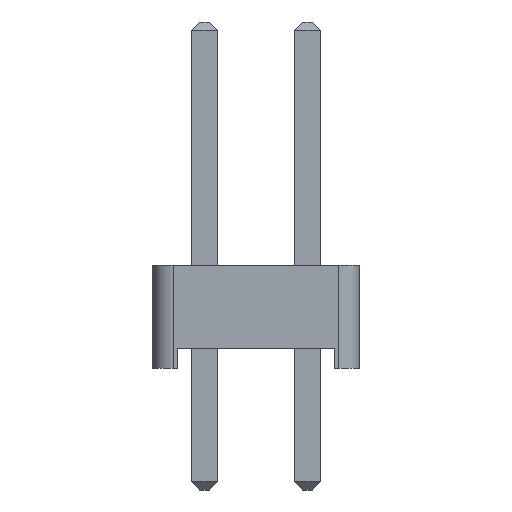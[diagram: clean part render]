
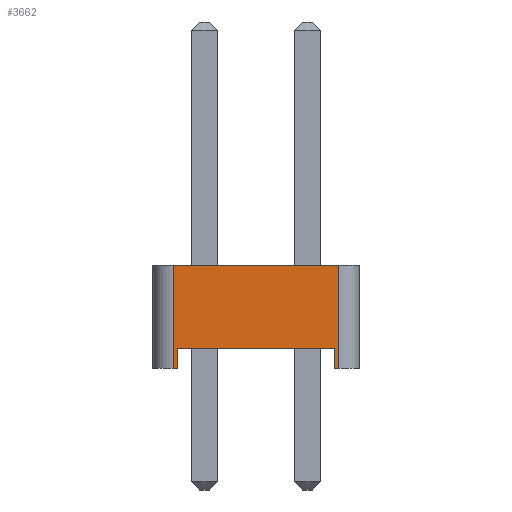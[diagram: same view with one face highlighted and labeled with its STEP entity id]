
A CAD part, left-side view. The second image highlights one B-rep face of the part: STEP entity #3662.
In plain terms, the highlighted planar face has unit normal (-1, 0, 0).
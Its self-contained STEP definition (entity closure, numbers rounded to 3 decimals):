
#3402 = VERTEX_POINT('',#3403);
#3403 = CARTESIAN_POINT('',(-1.27,2.04,0.));
#3411 = PLANE('',#3412);
#3412 = AXIS2_PLACEMENT_3D('',#3413,#3414,#3415);
#3413 = CARTESIAN_POINT('',(0.,0.,0.));
#3414 = DIRECTION('',(-0.,-0.,-1.));
#3415 = DIRECTION('',(-1.,0.,0.));
#3427 = CYLINDRICAL_SURFACE('',#3428,0.5);
#3428 = AXIS2_PLACEMENT_3D('',#3429,#3430,#3431);
#3429 = CARTESIAN_POINT('',(-0.77,2.04,0.));
#3430 = DIRECTION('',(0.,0.,1.));
#3431 = DIRECTION('',(0.,1.,0.));
#3529 = VERTEX_POINT('',#3530);
#3530 = CARTESIAN_POINT('',(-1.27,1.94,0.));
#3544 = PLANE('',#3545);
#3545 = AXIS2_PLACEMENT_3D('',#3546,#3547,#3548);
#3546 = CARTESIAN_POINT('',(1.27,1.94,0.));
#3547 = DIRECTION('',(0.,-1.,0.));
#3548 = DIRECTION('',(-1.,0.,0.));
#3556 = EDGE_CURVE('',#3529,#3402,#3557,.T.);
#3557 = SURFACE_CURVE('',#3558,(#3562,#3569),.PCURVE_S1.);
#3558 = LINE('',#3559,#3560);
#3559 = CARTESIAN_POINT('',(-1.27,-2.54,0.));
#3560 = VECTOR('',#3561,1.);
#3561 = DIRECTION('',(0.,1.,0.));
#3562 = PCURVE('',#3411,#3563);
#3563 = DEFINITIONAL_REPRESENTATION('',(#3564),#3568);
#3564 = LINE('',#3565,#3566);
#3565 = CARTESIAN_POINT('',(1.27,-2.54));
#3566 = VECTOR('',#3567,1.);
#3567 = DIRECTION('',(0.,1.));
#3568 = ( GEOMETRIC_REPRESENTATION_CONTEXT(2) 
PARAMETRIC_REPRESENTATION_CONTEXT() REPRESENTATION_CONTEXT('2D SPACE',''
  ) );
#3569 = PCURVE('',#3570,#3575);
#3570 = PLANE('',#3571);
#3571 = AXIS2_PLACEMENT_3D('',#3572,#3573,#3574);
#3572 = CARTESIAN_POINT('',(-1.27,-2.54,0.));
#3573 = DIRECTION('',(-1.,0.,0.));
#3574 = DIRECTION('',(0.,1.,0.));
#3575 = DEFINITIONAL_REPRESENTATION('',(#3576),#3580);
#3576 = LINE('',#3577,#3578);
#3577 = CARTESIAN_POINT('',(0.,0.));
#3578 = VECTOR('',#3579,1.);
#3579 = DIRECTION('',(1.,0.));
#3580 = ( GEOMETRIC_REPRESENTATION_CONTEXT(2) 
PARAMETRIC_REPRESENTATION_CONTEXT() REPRESENTATION_CONTEXT('2D SPACE',''
  ) );
#3586 = EDGE_CURVE('',#3402,#3587,#3589,.T.);
#3587 = VERTEX_POINT('',#3588);
#3588 = CARTESIAN_POINT('',(-1.27,2.04,2.54));
#3589 = SURFACE_CURVE('',#3590,(#3594,#3601),.PCURVE_S1.);
#3590 = LINE('',#3591,#3592);
#3591 = CARTESIAN_POINT('',(-1.27,2.04,0.));
#3592 = VECTOR('',#3593,1.);
#3593 = DIRECTION('',(0.,0.,1.));
#3594 = PCURVE('',#3427,#3595);
#3595 = DEFINITIONAL_REPRESENTATION('',(#3596),#3600);
#3596 = LINE('',#3597,#3598);
#3597 = CARTESIAN_POINT('',(1.571,0.));
#3598 = VECTOR('',#3599,1.);
#3599 = DIRECTION('',(0.,1.));
#3600 = ( GEOMETRIC_REPRESENTATION_CONTEXT(2) 
PARAMETRIC_REPRESENTATION_CONTEXT() REPRESENTATION_CONTEXT('2D SPACE',''
  ) );
#3601 = PCURVE('',#3570,#3602);
#3602 = DEFINITIONAL_REPRESENTATION('',(#3603),#3607);
#3603 = LINE('',#3604,#3605);
#3604 = CARTESIAN_POINT('',(4.58,0.));
#3605 = VECTOR('',#3606,1.);
#3606 = DIRECTION('',(0.,-1.));
#3607 = ( GEOMETRIC_REPRESENTATION_CONTEXT(2) 
PARAMETRIC_REPRESENTATION_CONTEXT() REPRESENTATION_CONTEXT('2D SPACE',''
  ) );
#3626 = PLANE('',#3627);
#3627 = AXIS2_PLACEMENT_3D('',#3628,#3629,#3630);
#3628 = CARTESIAN_POINT('',(0.,0.,2.54));
#3629 = DIRECTION('',(-0.,-0.,-1.));
#3630 = DIRECTION('',(-1.,0.,0.));
#3662 = ADVANCED_FACE('',(#3663),#3570,.T.);
#3663 = FACE_BOUND('',#3664,.T.);
#3664 = EDGE_LOOP('',(#3665,#3695,#3723,#3744,#3745,#3746,#3769,#3797));
#3665 = ORIENTED_EDGE('',*,*,#3666,.F.);
#3666 = EDGE_CURVE('',#3667,#3669,#3671,.T.);
#3667 = VERTEX_POINT('',#3668);
#3668 = CARTESIAN_POINT('',(-1.27,-2.04,0.));
#3669 = VERTEX_POINT('',#3670);
#3670 = CARTESIAN_POINT('',(-1.27,-1.94,0.));
#3671 = SURFACE_CURVE('',#3672,(#3676,#3683),.PCURVE_S1.);
#3672 = LINE('',#3673,#3674);
#3673 = CARTESIAN_POINT('',(-1.27,-2.54,0.));
#3674 = VECTOR('',#3675,1.);
#3675 = DIRECTION('',(0.,1.,0.));
#3676 = PCURVE('',#3570,#3677);
#3677 = DEFINITIONAL_REPRESENTATION('',(#3678),#3682);
#3678 = LINE('',#3679,#3680);
#3679 = CARTESIAN_POINT('',(0.,0.));
#3680 = VECTOR('',#3681,1.);
#3681 = DIRECTION('',(1.,0.));
#3682 = ( GEOMETRIC_REPRESENTATION_CONTEXT(2) 
PARAMETRIC_REPRESENTATION_CONTEXT() REPRESENTATION_CONTEXT('2D SPACE',''
  ) );
#3683 = PCURVE('',#3684,#3689);
#3684 = PLANE('',#3685);
#3685 = AXIS2_PLACEMENT_3D('',#3686,#3687,#3688);
#3686 = CARTESIAN_POINT('',(0.,0.,0.));
#3687 = DIRECTION('',(-0.,-0.,-1.));
#3688 = DIRECTION('',(-1.,0.,0.));
#3689 = DEFINITIONAL_REPRESENTATION('',(#3690),#3694);
#3690 = LINE('',#3691,#3692);
#3691 = CARTESIAN_POINT('',(1.27,-2.54));
#3692 = VECTOR('',#3693,1.);
#3693 = DIRECTION('',(0.,1.));
#3694 = ( GEOMETRIC_REPRESENTATION_CONTEXT(2) 
PARAMETRIC_REPRESENTATION_CONTEXT() REPRESENTATION_CONTEXT('2D SPACE',''
  ) );
#3695 = ORIENTED_EDGE('',*,*,#3696,.T.);
#3696 = EDGE_CURVE('',#3667,#3697,#3699,.T.);
#3697 = VERTEX_POINT('',#3698);
#3698 = CARTESIAN_POINT('',(-1.27,-2.04,2.54));
#3699 = SURFACE_CURVE('',#3700,(#3704,#3711),.PCURVE_S1.);
#3700 = LINE('',#3701,#3702);
#3701 = CARTESIAN_POINT('',(-1.27,-2.04,0.));
#3702 = VECTOR('',#3703,1.);
#3703 = DIRECTION('',(0.,0.,1.));
#3704 = PCURVE('',#3570,#3705);
#3705 = DEFINITIONAL_REPRESENTATION('',(#3706),#3710);
#3706 = LINE('',#3707,#3708);
#3707 = CARTESIAN_POINT('',(0.5,0.));
#3708 = VECTOR('',#3709,1.);
#3709 = DIRECTION('',(0.,-1.));
#3710 = ( GEOMETRIC_REPRESENTATION_CONTEXT(2) 
PARAMETRIC_REPRESENTATION_CONTEXT() REPRESENTATION_CONTEXT('2D SPACE',''
  ) );
#3711 = PCURVE('',#3712,#3717);
#3712 = CYLINDRICAL_SURFACE('',#3713,0.5);
#3713 = AXIS2_PLACEMENT_3D('',#3714,#3715,#3716);
#3714 = CARTESIAN_POINT('',(-0.77,-2.04,0.));
#3715 = DIRECTION('',(0.,0.,1.));
#3716 = DIRECTION('',(0.,-1.,0.));
#3717 = DEFINITIONAL_REPRESENTATION('',(#3718),#3722);
#3718 = LINE('',#3719,#3720);
#3719 = CARTESIAN_POINT('',(-1.571,0.));
#3720 = VECTOR('',#3721,1.);
#3721 = DIRECTION('',(-0.,1.));
#3722 = ( GEOMETRIC_REPRESENTATION_CONTEXT(2) 
PARAMETRIC_REPRESENTATION_CONTEXT() REPRESENTATION_CONTEXT('2D SPACE',''
  ) );
#3723 = ORIENTED_EDGE('',*,*,#3724,.T.);
#3724 = EDGE_CURVE('',#3697,#3587,#3725,.T.);
#3725 = SURFACE_CURVE('',#3726,(#3730,#3737),.PCURVE_S1.);
#3726 = LINE('',#3727,#3728);
#3727 = CARTESIAN_POINT('',(-1.27,-2.54,2.54));
#3728 = VECTOR('',#3729,1.);
#3729 = DIRECTION('',(0.,1.,0.));
#3730 = PCURVE('',#3570,#3731);
#3731 = DEFINITIONAL_REPRESENTATION('',(#3732),#3736);
#3732 = LINE('',#3733,#3734);
#3733 = CARTESIAN_POINT('',(0.,-2.54));
#3734 = VECTOR('',#3735,1.);
#3735 = DIRECTION('',(1.,0.));
#3736 = ( GEOMETRIC_REPRESENTATION_CONTEXT(2) 
PARAMETRIC_REPRESENTATION_CONTEXT() REPRESENTATION_CONTEXT('2D SPACE',''
  ) );
#3737 = PCURVE('',#3626,#3738);
#3738 = DEFINITIONAL_REPRESENTATION('',(#3739),#3743);
#3739 = LINE('',#3740,#3741);
#3740 = CARTESIAN_POINT('',(1.27,-2.54));
#3741 = VECTOR('',#3742,1.);
#3742 = DIRECTION('',(0.,1.));
#3743 = ( GEOMETRIC_REPRESENTATION_CONTEXT(2) 
PARAMETRIC_REPRESENTATION_CONTEXT() REPRESENTATION_CONTEXT('2D SPACE',''
  ) );
#3744 = ORIENTED_EDGE('',*,*,#3586,.F.);
#3745 = ORIENTED_EDGE('',*,*,#3556,.F.);
#3746 = ORIENTED_EDGE('',*,*,#3747,.T.);
#3747 = EDGE_CURVE('',#3529,#3748,#3750,.T.);
#3748 = VERTEX_POINT('',#3749);
#3749 = CARTESIAN_POINT('',(-1.27,1.94,0.5));
#3750 = SURFACE_CURVE('',#3751,(#3755,#3762),.PCURVE_S1.);
#3751 = LINE('',#3752,#3753);
#3752 = CARTESIAN_POINT('',(-1.27,1.94,0.));
#3753 = VECTOR('',#3754,1.);
#3754 = DIRECTION('',(0.,0.,1.));
#3755 = PCURVE('',#3570,#3756);
#3756 = DEFINITIONAL_REPRESENTATION('',(#3757),#3761);
#3757 = LINE('',#3758,#3759);
#3758 = CARTESIAN_POINT('',(4.48,0.));
#3759 = VECTOR('',#3760,1.);
#3760 = DIRECTION('',(0.,-1.));
#3761 = ( GEOMETRIC_REPRESENTATION_CONTEXT(2) 
PARAMETRIC_REPRESENTATION_CONTEXT() REPRESENTATION_CONTEXT('2D SPACE',''
  ) );
#3762 = PCURVE('',#3544,#3763);
#3763 = DEFINITIONAL_REPRESENTATION('',(#3764),#3768);
#3764 = LINE('',#3765,#3766);
#3765 = CARTESIAN_POINT('',(2.54,0.));
#3766 = VECTOR('',#3767,1.);
#3767 = DIRECTION('',(0.,-1.));
#3768 = ( GEOMETRIC_REPRESENTATION_CONTEXT(2) 
PARAMETRIC_REPRESENTATION_CONTEXT() REPRESENTATION_CONTEXT('2D SPACE',''
  ) );
#3769 = ORIENTED_EDGE('',*,*,#3770,.T.);
#3770 = EDGE_CURVE('',#3748,#3771,#3773,.T.);
#3771 = VERTEX_POINT('',#3772);
#3772 = CARTESIAN_POINT('',(-1.27,-1.94,0.5));
#3773 = SURFACE_CURVE('',#3774,(#3778,#3785),.PCURVE_S1.);
#3774 = LINE('',#3775,#3776);
#3775 = CARTESIAN_POINT('',(-1.27,1.94,0.5));
#3776 = VECTOR('',#3777,1.);
#3777 = DIRECTION('',(0.,-1.,0.));
#3778 = PCURVE('',#3570,#3779);
#3779 = DEFINITIONAL_REPRESENTATION('',(#3780),#3784);
#3780 = LINE('',#3781,#3782);
#3781 = CARTESIAN_POINT('',(4.48,-0.5));
#3782 = VECTOR('',#3783,1.);
#3783 = DIRECTION('',(-1.,0.));
#3784 = ( GEOMETRIC_REPRESENTATION_CONTEXT(2) 
PARAMETRIC_REPRESENTATION_CONTEXT() REPRESENTATION_CONTEXT('2D SPACE',''
  ) );
#3785 = PCURVE('',#3786,#3791);
#3786 = PLANE('',#3787);
#3787 = AXIS2_PLACEMENT_3D('',#3788,#3789,#3790);
#3788 = CARTESIAN_POINT('',(0.,0.,0.5));
#3789 = DIRECTION('',(0.,0.,1.));
#3790 = DIRECTION('',(1.,0.,0.));
#3791 = DEFINITIONAL_REPRESENTATION('',(#3792),#3796);
#3792 = LINE('',#3793,#3794);
#3793 = CARTESIAN_POINT('',(-1.27,1.94));
#3794 = VECTOR('',#3795,1.);
#3795 = DIRECTION('',(0.,-1.));
#3796 = ( GEOMETRIC_REPRESENTATION_CONTEXT(2) 
PARAMETRIC_REPRESENTATION_CONTEXT() REPRESENTATION_CONTEXT('2D SPACE',''
  ) );
#3797 = ORIENTED_EDGE('',*,*,#3798,.F.);
#3798 = EDGE_CURVE('',#3669,#3771,#3799,.T.);
#3799 = SURFACE_CURVE('',#3800,(#3804,#3811),.PCURVE_S1.);
#3800 = LINE('',#3801,#3802);
#3801 = CARTESIAN_POINT('',(-1.27,-1.94,0.));
#3802 = VECTOR('',#3803,1.);
#3803 = DIRECTION('',(0.,0.,1.));
#3804 = PCURVE('',#3570,#3805);
#3805 = DEFINITIONAL_REPRESENTATION('',(#3806),#3810);
#3806 = LINE('',#3807,#3808);
#3807 = CARTESIAN_POINT('',(0.6,0.));
#3808 = VECTOR('',#3809,1.);
#3809 = DIRECTION('',(0.,-1.));
#3810 = ( GEOMETRIC_REPRESENTATION_CONTEXT(2) 
PARAMETRIC_REPRESENTATION_CONTEXT() REPRESENTATION_CONTEXT('2D SPACE',''
  ) );
#3811 = PCURVE('',#3812,#3817);
#3812 = PLANE('',#3813);
#3813 = AXIS2_PLACEMENT_3D('',#3814,#3815,#3816);
#3814 = CARTESIAN_POINT('',(-1.27,-1.94,0.));
#3815 = DIRECTION('',(0.,1.,0.));
#3816 = DIRECTION('',(1.,0.,0.));
#3817 = DEFINITIONAL_REPRESENTATION('',(#3818),#3822);
#3818 = LINE('',#3819,#3820);
#3819 = CARTESIAN_POINT('',(0.,0.));
#3820 = VECTOR('',#3821,1.);
#3821 = DIRECTION('',(0.,-1.));
#3822 = ( GEOMETRIC_REPRESENTATION_CONTEXT(2) 
PARAMETRIC_REPRESENTATION_CONTEXT() REPRESENTATION_CONTEXT('2D SPACE',''
  ) );
